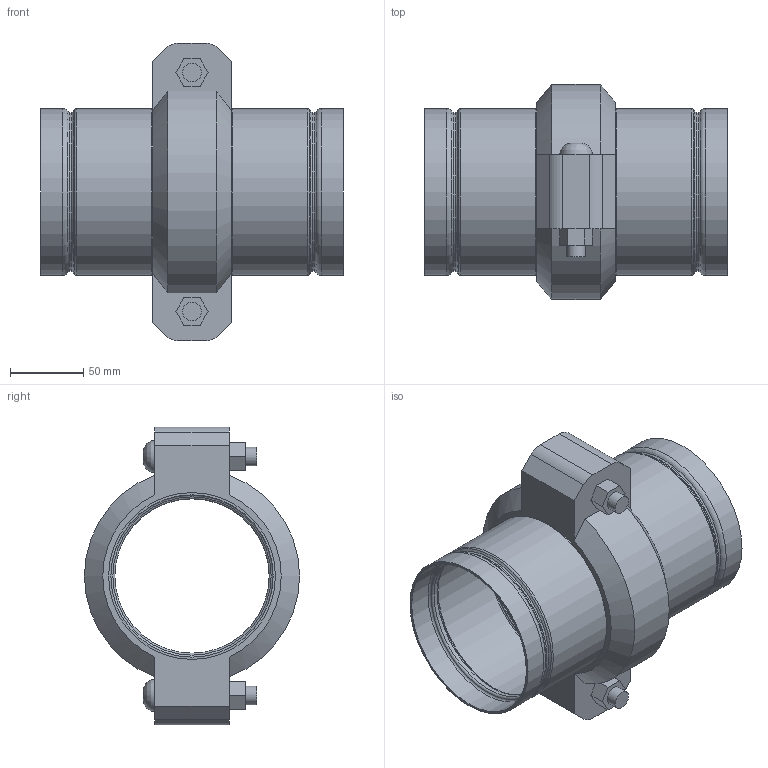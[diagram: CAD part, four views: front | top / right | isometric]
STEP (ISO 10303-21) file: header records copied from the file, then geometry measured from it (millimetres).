
FILE_DESCRIPTION(/* description */ ('VIC STRENGTHIN 100 EXPANSION JOINT 1 COUPLING EXPANDED STYLE E155 (ST1)','CAx-IF Rec.Pracs.---Representation and Presentation of Product Manufacturing Information (PMI)---4.0---2014-10-13'),/* implementation_level */ '2;1');
FILE_NAME(/* name */ 'C:\Users\Vjadhav\AppData\Roaming\Autodesk\ApplicationPlugins\Victaulic.Temp\A475\Victaulic_SS-StrengThin 100_Expansion Joint_Expanded_1 Coupling_Style E155 (ST1)_4 (100).stp',/* time_stamp */ '2021-07-23T19:21:58+06:00',/* author */ ('kkamble'),/* organization */ ('Victaulic'),/* preprocessor_version */ 'ST-DEVELOPER v17.2',/* originating_system */ 'Autodesk Inventor 2019',/* authorisation */ '');
FILE_SCHEMA (('AP242_MANAGED_MODEL_BASED_3D_ENGINEERING_MIM_LF { 1 0 10303 442 1 1 4 }'));
Length unit declared in the file: inch
Products named in the file (3): E155-04.0; E494G-04.0; 075-04.0
Assembly tree (3 placements, depth 2):
  E155-04.0
    E494G-04.0  x2
    075-04.0
Bounding box: 207.26 x 147.32 x 203.96 mm (x, y, z)
Volume: 603357.9 mm3; surface area: 230565.3 mm2
Topology: 3 solids, 5 shells, 125 faces, 355 edges, 256 vertices
Faces by surface type: plane 48, cylinder 35, torus 32, cone 8, bspline 2
Full cylindrical faces by diameter (mm): 12.7 x4, 14.605 x2, 105.639 x2, 106.883 x2, 107.95 x1, 108.839 x2, 110.084 x2, 111.1 x6, 114.3 x8
Entity records: 3250 total; most frequent: CARTESIAN_POINT 582, DIRECTION 569, ORIENTED_EDGE 488, EDGE_CURVE 244, AXIS2_PLACEMENT_3D 238, VERTEX_POINT 173, CIRCLE 143, EDGE_LOOP 111
